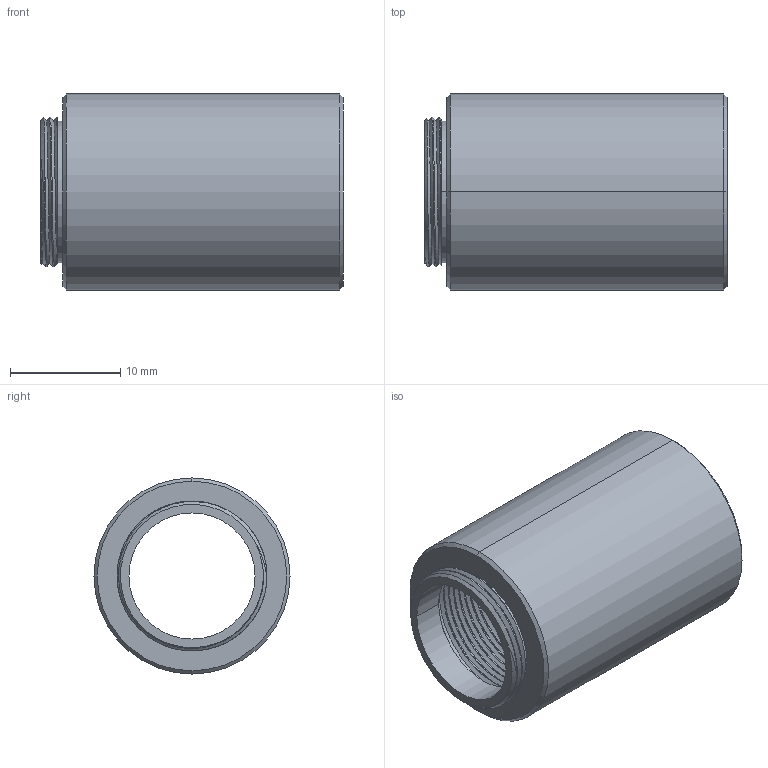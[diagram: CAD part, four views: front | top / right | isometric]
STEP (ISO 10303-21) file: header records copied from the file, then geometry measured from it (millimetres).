
FILE_DESCRIPTION((''),'2;1');
FILE_NAME('SM05L10','2022-11-14T',('daizh'),(''),'CREO PARAMETRIC BY PTC INC, 2018360','CREO PARAMETRIC BY PTC INC, 2018360','');
FILE_SCHEMA(('CONFIG_CONTROL_DESIGN'));
Length unit declared in the file: millimetre
Products named in the file (1): SM05L10
Bounding box: 27.4 x 17.78 x 17.78 mm (x, y, z)
Volume: 2834.9 mm3; surface area: 3297.4 mm2
Topology: 1 solids, 1 shells, 120 faces, 330 edges, 215 vertices
Faces by surface type: cylinder 83, bspline 26, cone 6, plane 5
Entity records: 13382 total; most frequent: CARTESIAN_POINT 10737, ORIENTED_EDGE 660, DIRECTION 346, EDGE_CURVE 330, VERTEX_POINT 215, B_SPLINE_CURVE_WITH_KNOTS 196, EDGE_LOOP 125, FACE_OUTER_BOUND 120
